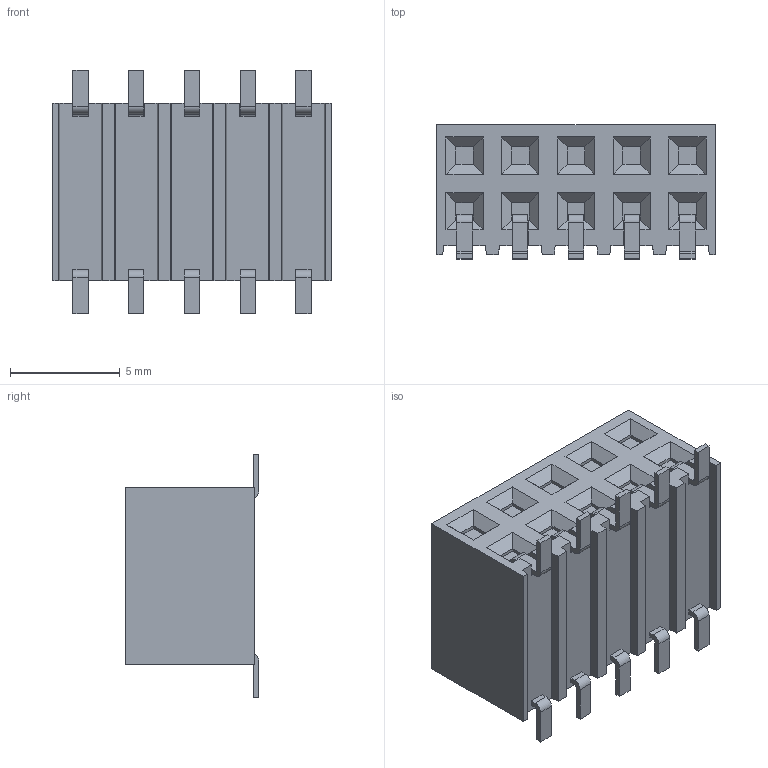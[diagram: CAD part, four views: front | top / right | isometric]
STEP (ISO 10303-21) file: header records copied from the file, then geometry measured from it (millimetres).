
FILE_DESCRIPTION (( 'STEP AP203' ), '1' );
FILE_NAME ('PM254-2-05-SE-8.1-XX(L11.1) (2.54ﾋｫﾅﾅ ﾋｫｲ猯ｬ ﾅﾅﾄｸ ﾋﾜｸﾟ8.1-HCTL).STEP', '2025-08-11T02:51:31', ( '' ), ( '' ), 'SwSTEP 2.0', 'SolidWorks 2025', '' );
FILE_SCHEMA (( 'CONFIG_CONTROL_DESIGN' ));
Length unit declared in the file: millimetre
Products named in the file (1): PM254-2-05-SE-8.1-XX(L11.1) (2.54双排 双侧贴片 排母 塑高8.1-HCTL)
Bounding box: 12.7 x 6.1 x 11.1 mm (x, y, z)
Volume: 570.1 mm3; surface area: 544.9 mm2
Topology: 1 solids, 1 shells, 236 faces, 617 edges, 398 vertices
Faces by surface type: plane 206, cylinder 30
Entity records: 7178 total; most frequent: CARTESIAN_POINT 1252, ORIENTED_EDGE 1234, DIRECTION 1151, EDGE_CURVE 617, VECTOR 557, LINE 557, VERTEX_POINT 398, AXIS2_PLACEMENT_3D 297
